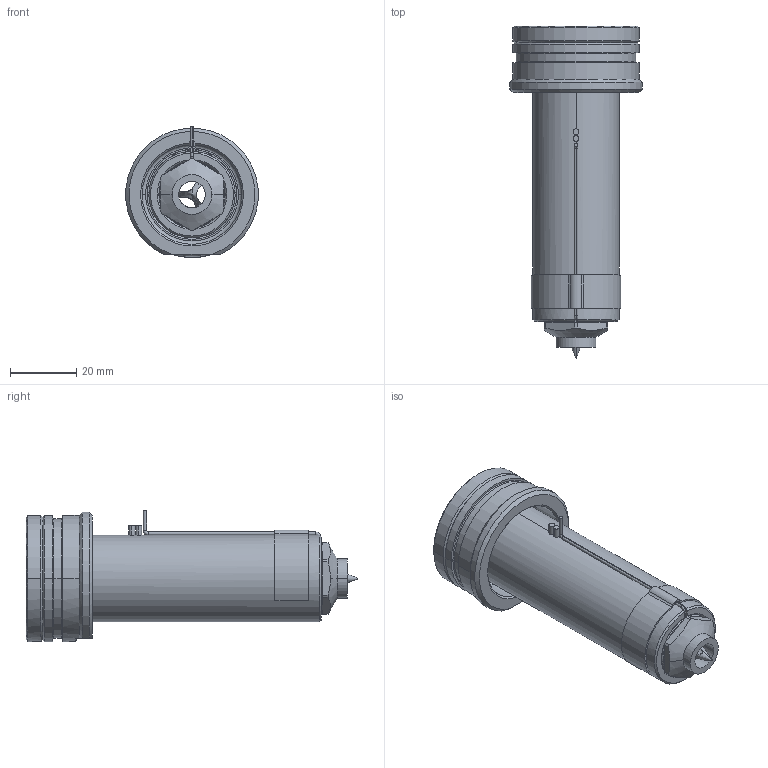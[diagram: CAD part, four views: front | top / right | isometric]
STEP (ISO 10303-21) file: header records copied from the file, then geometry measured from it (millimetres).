
FILE_DESCRIPTION((''),'2;1');
FILE_NAME('EO08_PG-BL_STD_080_SW','2024-02-19T11:04:59',('sundharh'),(''),'CREO PARAMETRIC BY PTC INC, 2023154','CREO PARAMETRIC BY PTC INC, 2023154','');
FILE_SCHEMA(('CONFIG_CONTROL_DESIGN'));
Length unit declared in the file: millimetre
Products named in the file (1): EO08_PG-BL_STD_080_SW
Bounding box: 39.88 x 100 x 39.52 mm (x, y, z)
Volume: 54227.9 mm3; surface area: 17335.8 mm2
Topology: 1 solids, 1 shells, 203 faces, 542 edges, 336 vertices
Faces by surface type: cylinder 79, plane 58, cone 41, torus 19, bspline 4, sphere 2
Entity records: 7861 total; most frequent: CARTESIAN_POINT 2678, DIRECTION 1140, ORIENTED_EDGE 1076, EDGE_CURVE 538, AXIS2_PLACEMENT_3D 476, VERTEX_POINT 336, CIRCLE 277, EDGE_LOOP 220
